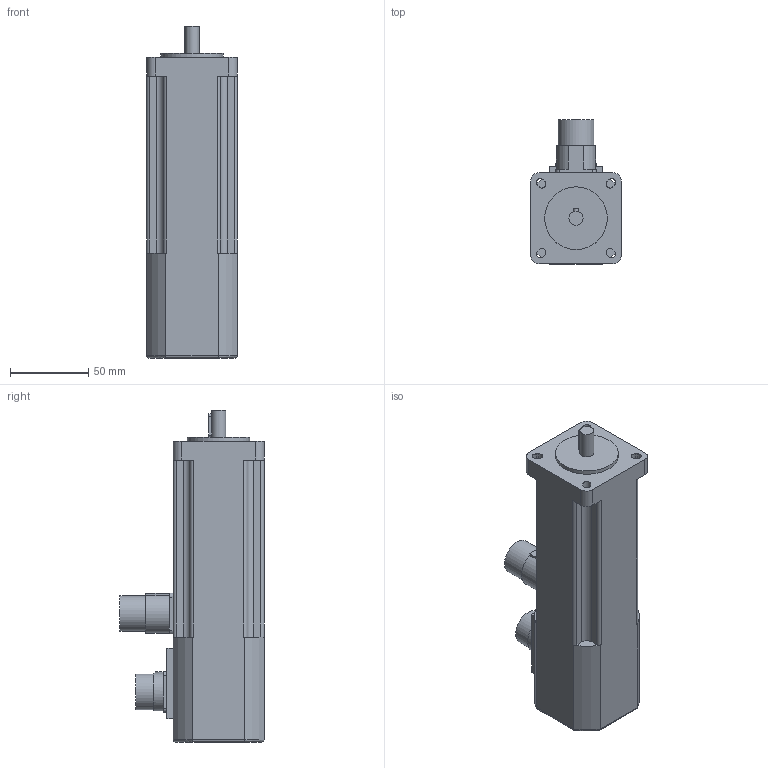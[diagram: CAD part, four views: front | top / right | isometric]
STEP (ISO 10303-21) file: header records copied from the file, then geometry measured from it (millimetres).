
FILE_DESCRIPTION(/* description */ (''),/* implementation_level */ '2;1');
FILE_NAME(/* name */ '\\Lafnas01\disegni\Archivi Lafert\3D\CAD 3D\MODELLI\Assiemi clienti\Serad\Modelli 3D Serad\B28I\Encoder\Enc With Brake\B28D4Ixx4BRx0033.ipt.stp',/* time_stamp */ '2015-09-07T10:47:55+02:00',/* author */ ('Pastrello Ylenia'),/* organization */ (''),/* preprocessor_version */ 'ST-DEVELOPER v15.6',/* originating_system */ 'Autodesk Inventor 2015',/* authorisation */ '');
FILE_SCHEMA (('AUTOMOTIVE_DESIGN { 1 0 10303 214 3 1 1 }'));
Length unit declared in the file: millimetre
Products named in the file (1): B28D4Ixx4BRx0033
Bounding box: 58 x 92 x 212 mm (x, y, z)
Volume: 608769.6 mm3; surface area: 54703.8 mm2
Topology: 1 solids, 1 shells, 138 faces, 368 edges, 239 vertices
Faces by surface type: plane 76, cylinder 58, torus 4
Full cylindrical faces by diameter (mm): 9 x1, 22.7 x2, 24 x1, 40 x1
Entity records: 4389 total; most frequent: CARTESIAN_POINT 872, DIRECTION 741, ORIENTED_EDGE 720, EDGE_CURVE 359, AXIS2_PLACEMENT_3D 255, VERTEX_POINT 236, LINE 231, VECTOR 231
